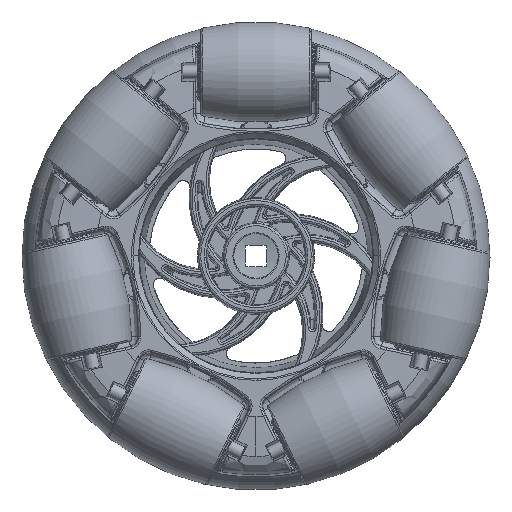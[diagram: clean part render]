
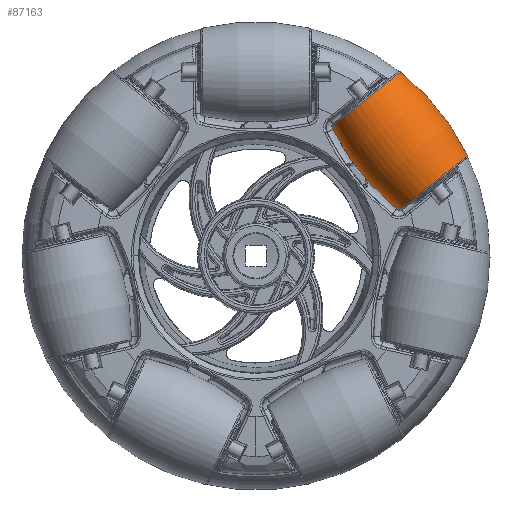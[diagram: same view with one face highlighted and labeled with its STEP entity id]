
A CAD part, top view. The second image highlights one B-rep face of the part: STEP entity #87163.
In plain terms, the highlighted toroidal (fillet/blend) face has major radius 27.5 mm and minor radius 35 mm.
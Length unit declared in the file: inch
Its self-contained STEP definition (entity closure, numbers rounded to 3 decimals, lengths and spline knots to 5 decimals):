
#3302 = CARTESIAN_POINT ( 'NONE',  ( 0., 1.08268, 0. ) ) ;
#3308 = DIRECTION ( 'NONE',  ( 1., 0., 0. ) ) ;
#3363 = DIRECTION ( 'NONE',  ( 0., 1., 0. ) ) ;
#9359 = CARTESIAN_POINT ( 'NONE',  ( -0.3157, 0.82405, 0. ) ) ;
#9367 = CARTESIAN_POINT ( 'NONE',  ( -0.3157, 1.3413, 0. ) ) ;
#9372 = CARTESIAN_POINT ( 'NONE',  ( 0.3157, 0.82405, 0. ) ) ;
#9374 = CARTESIAN_POINT ( 'NONE',  ( -0.3157, 1.34129, 0.00202 ) ) ;
#9380 = CARTESIAN_POINT ( 'NONE',  ( 0.3157, 1.3413, 0. ) ) ;
#9384 = CARTESIAN_POINT ( 'NONE',  ( 0.3157, 1.3413, 0.00137 ) ) ;
#16644 = AXIS2_PLACEMENT_3D ( 'NONE', #74072, #74077, #74078 ) ;
#16663 = AXIS2_PLACEMENT_3D ( 'NONE', #74165, #74182, #74183 ) ;
#16670 = AXIS2_PLACEMENT_3D ( 'NONE', #74193, #74202, #74204 ) ;
#16673 = AXIS2_PLACEMENT_3D ( 'NONE', #74191, #74242, #74244 ) ;
#16675 = AXIS2_PLACEMENT_3D ( 'NONE', #74246, #74255, #74257 ) ;
#16677 = AXIS2_PLACEMENT_3D ( 'NONE', #74260, #74296, #74297 ) ;
#27603 = CIRCLE ( 'NONE', #16644, 0.25862 ) ;
#27622 = CIRCLE ( 'NONE', #16663, 0.25862 ) ;
#27626 = CIRCLE ( 'NONE', #16670, 1.37795 ) ;
#27634 = CIRCLE ( 'NONE', #16673, 1.37795 ) ;
#27637 = CIRCLE ( 'NONE', #16675, 0.25862 ) ;
#27642 = CIRCLE ( 'NONE', #16677, 0.25862 ) ;
#44160 = VERTEX_POINT ( 'NONE', #9359 ) ;
#44164 = VERTEX_POINT ( 'NONE', #9367 ) ;
#44166 = VERTEX_POINT ( 'NONE', #9372 ) ;
#44167 = VERTEX_POINT ( 'NONE', #9374 ) ;
#44170 = VERTEX_POINT ( 'NONE', #9380 ) ;
#44172 = VERTEX_POINT ( 'NONE', #9384 ) ;
#49925 = TOROIDAL_SURFACE ( 'NONE', #55040, -1.08268, 1.37795 ) ;
#49928 = FACE_OUTER_BOUND ( 'NONE', #50151, .T. ) ;
#50151 = EDGE_LOOP ( 'NONE', ( #59978, #59981, #59983, #59985, #59987, #59988 ) ) ;
#55040 = AXIS2_PLACEMENT_3D ( 'NONE', #3302, #3308, #3363 ) ;
#57680 = EDGE_CURVE ( 'NONE', #44166, #44172, #27603, .T. ) ;
#57719 = EDGE_CURVE ( 'NONE', #44167, #44160, #27622, .T. ) ;
#57725 = EDGE_CURVE ( 'NONE', #44160, #44166, #27626, .T. ) ;
#57734 = EDGE_CURVE ( 'NONE', #44164, #44170, #27634, .T. ) ;
#57738 = EDGE_CURVE ( 'NONE', #44172, #44170, #27637, .T. ) ;
#57743 = EDGE_CURVE ( 'NONE', #44164, #44167, #27642, .T. ) ;
#59978 = ORIENTED_EDGE ( 'NONE', *, *, #57743, .T. ) ;
#59981 = ORIENTED_EDGE ( 'NONE', *, *, #57719, .T. ) ;
#59983 = ORIENTED_EDGE ( 'NONE', *, *, #57725, .T. ) ;
#59985 = ORIENTED_EDGE ( 'NONE', *, *, #57680, .T. ) ;
#59987 = ORIENTED_EDGE ( 'NONE', *, *, #57738, .T. ) ;
#59988 = ORIENTED_EDGE ( 'NONE', *, *, #57734, .F. ) ;
#74072 = CARTESIAN_POINT ( 'NONE',  ( 0.3157, 1.08268, 0. ) ) ;
#74077 = DIRECTION ( 'NONE',  ( -1., 0., 0. ) ) ;
#74078 = DIRECTION ( 'NONE',  ( 0., -1., 0. ) ) ;
#74165 = CARTESIAN_POINT ( 'NONE',  ( -0.3157, 1.08268, 0. ) ) ;
#74182 = DIRECTION ( 'NONE',  ( 1., 0., 0. ) ) ;
#74183 = DIRECTION ( 'NONE',  ( 0., 1., 0. ) ) ;
#74191 = CARTESIAN_POINT ( 'NONE',  ( 0., 0., 0. ) ) ;
#74193 = CARTESIAN_POINT ( 'NONE',  ( 0., 2.16535, 0. ) ) ;
#74202 = DIRECTION ( 'NONE',  ( 0., 0., 1. ) ) ;
#74204 = DIRECTION ( 'NONE',  ( 1., 0., 0. ) ) ;
#74242 = DIRECTION ( 'NONE',  ( 0., 0., -1. ) ) ;
#74244 = DIRECTION ( 'NONE',  ( -1., 0., 0. ) ) ;
#74246 = CARTESIAN_POINT ( 'NONE',  ( 0.3157, 1.08268, 0. ) ) ;
#74255 = DIRECTION ( 'NONE',  ( -1., 0., 0. ) ) ;
#74257 = DIRECTION ( 'NONE',  ( 0., -1., 0. ) ) ;
#74260 = CARTESIAN_POINT ( 'NONE',  ( -0.3157, 1.08268, 0. ) ) ;
#74296 = DIRECTION ( 'NONE',  ( 1., 0., 0. ) ) ;
#74297 = DIRECTION ( 'NONE',  ( 0., 1., 0. ) ) ;
#87163 = ADVANCED_FACE ( 'NONE', ( #49928 ), #49925, .T. ) ;
